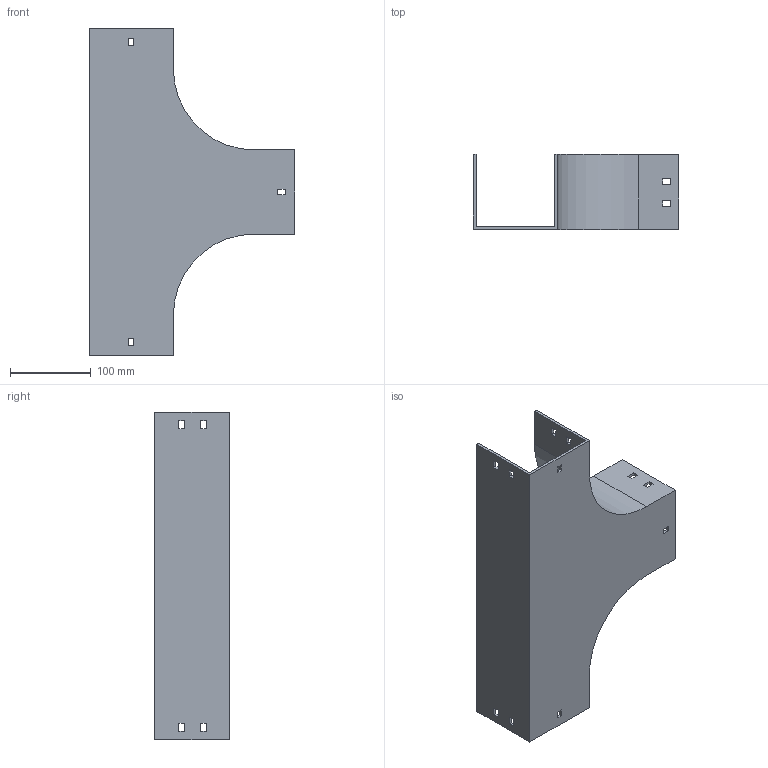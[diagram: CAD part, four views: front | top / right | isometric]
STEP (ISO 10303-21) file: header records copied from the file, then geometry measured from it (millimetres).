
FILE_DESCRIPTION (( 'STEP AP214' ), '1' );
FILE_NAME ('15B1I100.step', '2025-02-21T09:55:39', ( '' ), ( '' ), 'SwSTEP 2.0', 'SolidWorks 2023', '' );
FILE_SCHEMA (( 'AUTOMOTIVE_DESIGN' ));
Length unit declared in the file: millimetre
Products named in the file (1): 15B1I100
Bounding box: 254 x 92.5 x 404 mm (x, y, z)
Volume: 500843.1 mm3; surface area: 294124.1 mm2
Topology: 1 solids, 1 shells, 82 faces, 240 edges, 160 vertices
Faces by surface type: plane 78, cylinder 4
Entity records: 2755 total; most frequent: CARTESIAN_POINT 483, ORIENTED_EDGE 480, DIRECTION 414, EDGE_CURVE 240, LINE 232, VECTOR 232, VERTEX_POINT 160, EDGE_LOOP 112
